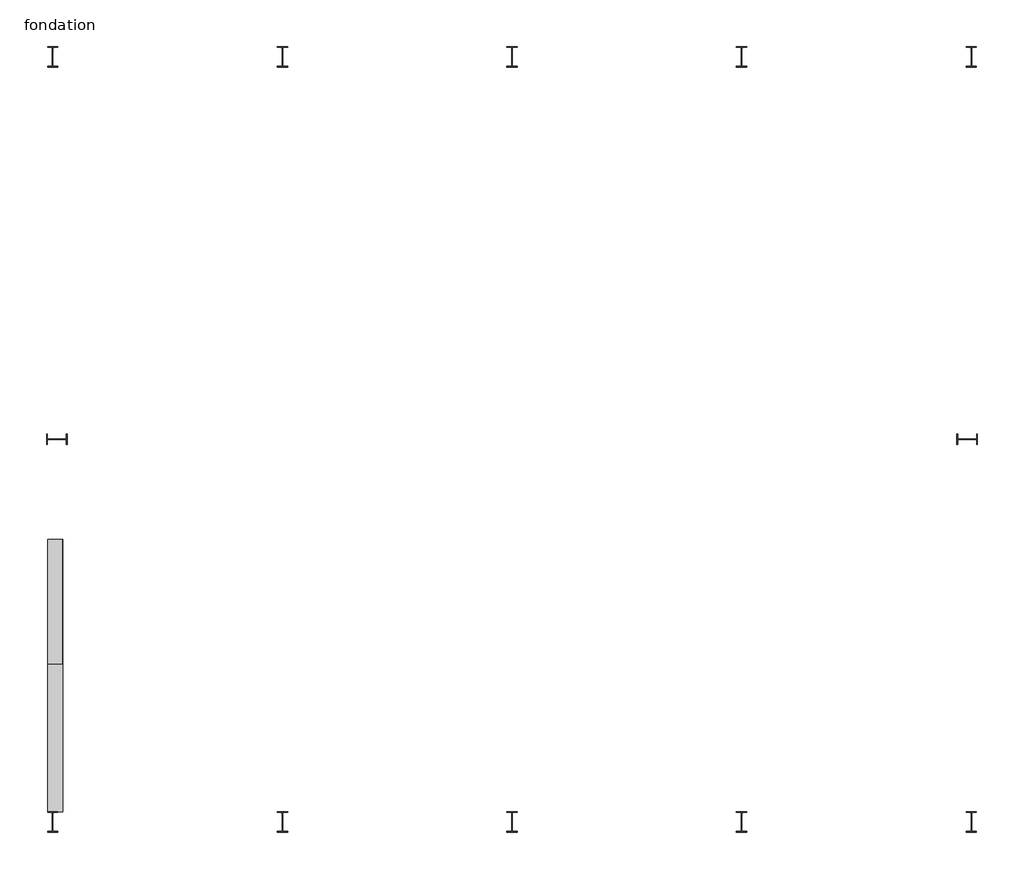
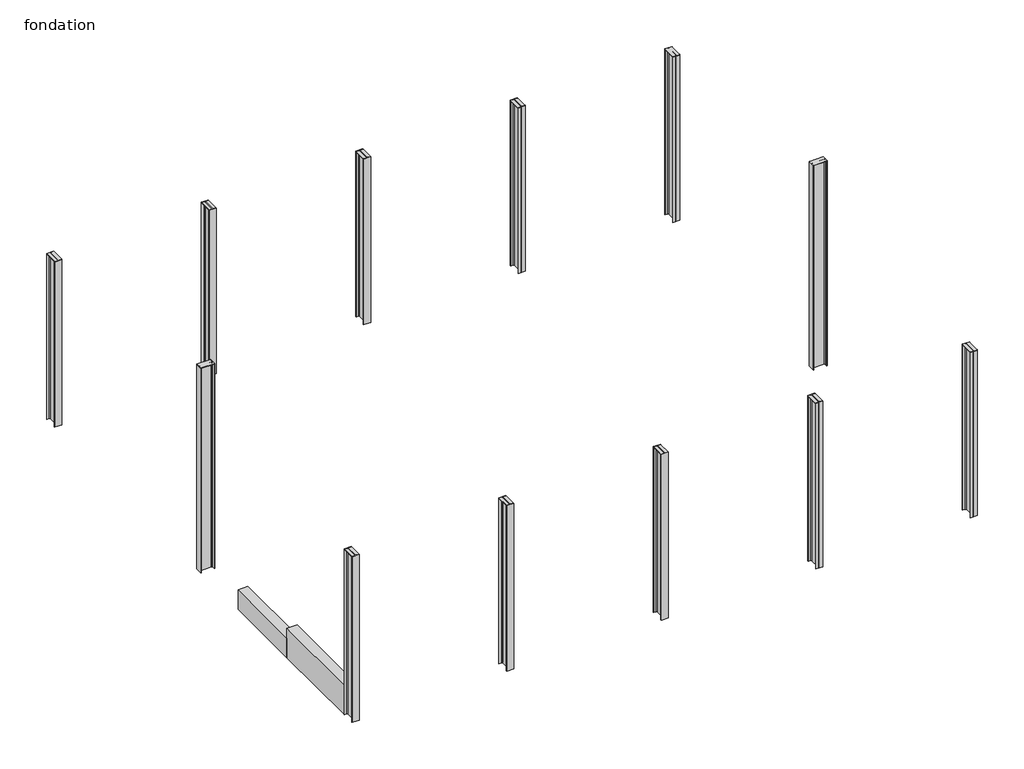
# One storey: 12 columns, 2 beams.
"""IFC4 building model written with IfcOpenShell, lengths in millimetres."""

from ifc_helpers import new_model, si_unit, point, frame, frame_2d, origin, place, context, project, spatial, polyline, circle_curve, trimmed, segment, composite_curve, outline, extrude, faceted_brep, transform, mapped, element, save
from components import ipe270_8f180465

model = new_model("IFC4")

# Units and contexts
model_context = context("Model", 3, world=origin())
ifc_project = project(units=[si_unit("LENGTHUNIT", "METRE", prefix="MILLI")], contexts=[model_context])

# Site, building, storey
site = spatial("IfcSite", under=ifc_project)
building = spatial("IfcBuilding", under=site)
storey = spatial("IfcBuildingStorey", under=building, Name="fondation", Elevation=-400.0)

# Beams
placement = place(None, origin())
element("IfcBeam", 1, ObjectType="Poutre rectangulaire - Béton : longrine", at=placement, inside=storey, context=model_context, shape_type="Brep", body=[
    faceted_brep([(-16301.3291149, 1052.8785901, 200.0), (-16301.3291149, 1052.8785901, -400.0), (-16101.3291149, 1052.8785901, -400.0), (-16101.3291149, 1052.8785901, -200.0), (-16110.5291149, 1052.8785901, -200.0), (-16110.5291149, 1052.8785901, 0.0), (-16101.3291149, 1052.8785901, 0.0), (-16101.3291149, 1052.8785901, 200.0), (-16301.3291149, 2975.5785901, 200.0), (-16101.3291149, 2975.5785901, 200.0), (-16101.3291149, 2975.5785901, 0.0), (-16110.5291149, 2975.5785901, 0.0), (-16110.5291149, 2975.5785901, -200.0), (-16101.3291149, 2975.5785901, -200.0), (-16101.3291149, 2975.5785901, -400.0), (-16301.3291149, 2975.5785901, -400.0), (-16301.3291149, 2975.5785901, 0.0)], [[[0, 1, 2, 3, 4, 5, 6, 7]], [[8, 9, 10, 11, 12, 13, 14, 15, 16]], [[1, 0, 8, 16, 15]], [[2, 1, 15, 14]], [[2, 14, 13, 3]], [[0, 7, 9, 8]], [[12, 4, 3, 13]], [[5, 11, 10, 6]], [[4, 12, 11, 5]], [[9, 7, 6, 10]]]),
])
element("IfcBeam", 2, ObjectType="Poutre rectangulaire - Béton : petie longrine", at=placement, inside=storey, context=model_context, shape_type="SweptSolid", body=[
    extrude(outline(polyline([(0.0, -16301.3291149), (-400.0, -16301.3291149), (-400.0, -16101.3291149), (-200.0, -16101.3291149), (-200.0, -16110.5291149), (0.0, -16110.5291149), (0.0, -16301.3291149)])), frame((0.0, 2975.5785901, 0.0), z_axis=(0.0, 1.0, 0.0), x_axis=(0.0, 0.0, 1.0)), (0.0, 0.0, 1.0), 1636.6955527),
])

# Columns
element("IfcColumn", 3, ObjectType="Poteau IPEavec plaque : IPE270", at=placement, inside=storey, context=model_context, shape_type="SweptSolid", body=[
    extrude(outline(polyline([(-16166.3291149, 11052.4635983), (-16166.3291149, 10782.4635983), (-16301.3291149, 10782.4635983), (-16301.3291149, 11052.4635983), (-16166.3291149, 11052.4635983)])), frame((0.0, 0.0, 2990.0), z_axis=(0.0, 0.0, 1.0), x_axis=(1.0, 0.0, 0.0)), (0.0, 0.0, 1.0), 10.0),
    extrude(outline(composite_curve([segment(polyline([(-16166.3291149, 11052.4635983), (-16166.3291149, 11042.2635983), (-16215.5291149, 11042.2635983)]), True, "CONTINUOUS"), segment(trimmed(circle_curve(frame_2d((-16215.5291149, 11027.2635983)), 15.0), [point((-16215.5291149, 11042.2635983))], [point((-16230.5291149, 11027.2635983))], True, "CARTESIAN"), True, "CONTINUOUS"), segment(polyline([(-16230.5291149, 11027.2635983), (-16230.5291149, 10807.6635983)]), True, "CONTINUOUS"), segment(trimmed(circle_curve(frame_2d((-16215.5291149, 10807.6635983)), 15.0), [point((-16230.5291149, 10807.6635983))], [point((-16215.5291149, 10792.6635983))], True, "CARTESIAN"), True, "CONTINUOUS"), segment(polyline([(-16215.5291149, 10792.6635983), (-16166.3291149, 10792.6635983), (-16166.3291149, 10782.4635983), (-16301.3291149, 10782.4635983), (-16301.3291149, 10792.6635983), (-16252.1291149, 10792.6635983)]), True, "CONTINUOUS"), segment(trimmed(circle_curve(frame_2d((-16252.1291149, 10807.6635983)), 15.0), [point((-16252.1291149, 10792.6635983))], [point((-16237.1291149, 10807.6635983))], True, "CARTESIAN"), True, "CONTINUOUS"), segment(polyline([(-16237.1291149, 10807.6635983), (-16237.1291149, 11027.2635983)]), True, "CONTINUOUS"), segment(trimmed(circle_curve(frame_2d((-16252.1291149, 11027.2635983)), 15.0), [point((-16237.1291149, 11027.2635983))], [point((-16252.1291149, 11042.2635983))], True, "CARTESIAN"), True, "CONTINUOUS"), segment(polyline([(-16252.1291149, 11042.2635983), (-16301.3291149, 11042.2635983), (-16301.3291149, 11052.4635983), (-16166.3291149, 11052.4635983)]), True, "CONTINUOUS")], self_intersect=False)), frame((0.0, 0.0, -400.0), z_axis=(0.0, 0.0, 1.0), x_axis=(1.0, 0.0, 0.0)), (0.0, 0.0, 1.0), 3400.0),
])
element("IfcColumn", 4, ObjectType="Poteau IPEavec plaque : IPE270", at=placement, inside=storey, context=model_context, shape_type="SweptSolid", body=[
    extrude(outline(polyline([(-4166.3291149, 11052.4635983), (-4166.3291149, 10782.4635983), (-4301.3291149, 10782.4635983), (-4301.3291149, 11052.4635983), (-4166.3291149, 11052.4635983)])), frame((0.0, 0.0, 2990.0), z_axis=(0.0, 0.0, 1.0), x_axis=(1.0, 0.0, 0.0)), (0.0, 0.0, 1.0), 10.0),
    extrude(outline(composite_curve([segment(polyline([(-4166.3291149, 11052.4635983), (-4166.3291149, 11042.2635983), (-4215.5291149, 11042.2635983)]), True, "CONTINUOUS"), segment(trimmed(circle_curve(frame_2d((-4215.5291149, 11027.2635983)), 15.0), [point((-4215.5291149, 11042.2635983))], [point((-4230.5291149, 11027.2635983))], True, "CARTESIAN"), True, "CONTINUOUS"), segment(polyline([(-4230.5291149, 11027.2635983), (-4230.5291149, 10807.6635983)]), True, "CONTINUOUS"), segment(trimmed(circle_curve(frame_2d((-4215.5291149, 10807.6635983)), 15.0), [point((-4230.5291149, 10807.6635983))], [point((-4215.5291149, 10792.6635983))], True, "CARTESIAN"), True, "CONTINUOUS"), segment(polyline([(-4215.5291149, 10792.6635983), (-4166.3291149, 10792.6635983), (-4166.3291149, 10782.4635983), (-4301.3291149, 10782.4635983), (-4301.3291149, 10792.6635983), (-4252.1291149, 10792.6635983)]), True, "CONTINUOUS"), segment(trimmed(circle_curve(frame_2d((-4252.1291149, 10807.6635983)), 15.0), [point((-4252.1291149, 10792.6635983))], [point((-4237.1291149, 10807.6635983))], True, "CARTESIAN"), True, "CONTINUOUS"), segment(polyline([(-4237.1291149, 10807.6635983), (-4237.1291149, 11027.2635983)]), True, "CONTINUOUS"), segment(trimmed(circle_curve(frame_2d((-4252.1291149, 11027.2635983)), 15.0), [point((-4237.1291149, 11027.2635983))], [point((-4252.1291149, 11042.2635983))], True, "CARTESIAN"), True, "CONTINUOUS"), segment(polyline([(-4252.1291149, 11042.2635983), (-4301.3291149, 11042.2635983), (-4301.3291149, 11052.4635983), (-4166.3291149, 11052.4635983)]), True, "CONTINUOUS")], self_intersect=False)), frame((0.0, 0.0, -400.0), z_axis=(0.0, 0.0, 1.0), x_axis=(1.0, 0.0, 0.0)), (0.0, 0.0, 1.0), 3400.0),
])
element("IfcColumn", 5, ObjectType="Poteau IPEavec plaque : IPE270", at=placement, inside=storey, context=model_context, shape_type="SweptSolid", body=[
    extrude(outline(polyline([(-4166.3291149, 1052.4635983), (-4166.3291149, 782.4635983), (-4301.3291149, 782.4635983), (-4301.3291149, 1052.4635983), (-4166.3291149, 1052.4635983)])), frame((0.0, 0.0, 2990.0), z_axis=(0.0, 0.0, 1.0), x_axis=(1.0, 0.0, 0.0)), (0.0, 0.0, 1.0), 10.0),
    extrude(outline(composite_curve([segment(polyline([(-4166.3291149, 1052.4635983), (-4166.3291149, 1042.2635983), (-4215.5291149, 1042.2635983)]), True, "CONTINUOUS"), segment(trimmed(circle_curve(frame_2d((-4215.5291149, 1027.2635983)), 15.0), [point((-4215.5291149, 1042.2635983))], [point((-4230.5291149, 1027.2635983))], True, "CARTESIAN"), True, "CONTINUOUS"), segment(polyline([(-4230.5291149, 1027.2635983), (-4230.5291149, 807.6635983)]), True, "CONTINUOUS"), segment(trimmed(circle_curve(frame_2d((-4215.5291149, 807.6635983)), 15.0), [point((-4230.5291149, 807.6635983))], [point((-4215.5291149, 792.6635983))], True, "CARTESIAN"), True, "CONTINUOUS"), segment(polyline([(-4215.5291149, 792.6635983), (-4166.3291149, 792.6635983), (-4166.3291149, 782.4635983), (-4301.3291149, 782.4635983), (-4301.3291149, 792.6635983), (-4252.1291149, 792.6635983)]), True, "CONTINUOUS"), segment(trimmed(circle_curve(frame_2d((-4252.1291149, 807.6635983)), 15.0), [point((-4252.1291149, 792.6635983))], [point((-4237.1291149, 807.6635983))], True, "CARTESIAN"), True, "CONTINUOUS"), segment(polyline([(-4237.1291149, 807.6635983), (-4237.1291149, 1027.2635983)]), True, "CONTINUOUS"), segment(trimmed(circle_curve(frame_2d((-4252.1291149, 1027.2635983)), 15.0), [point((-4237.1291149, 1027.2635983))], [point((-4252.1291149, 1042.2635983))], True, "CARTESIAN"), True, "CONTINUOUS"), segment(polyline([(-4252.1291149, 1042.2635983), (-4301.3291149, 1042.2635983), (-4301.3291149, 1052.4635983), (-4166.3291149, 1052.4635983)]), True, "CONTINUOUS")], self_intersect=False)), frame((0.0, 0.0, -400.0), z_axis=(0.0, 0.0, 1.0), x_axis=(1.0, 0.0, 0.0)), (0.0, 0.0, 1.0), 3400.0),
])
element("IfcColumn", 6, ObjectType="Poteau IPEavec plaque : IPE270", at=placement, inside=storey, context=model_context, shape_type="SweptSolid", body=[
    extrude(outline(polyline([(-4153.8291149, 5849.9635983), (-4423.8291149, 5849.9635983), (-4423.8291149, 5984.9635983), (-4153.8291149, 5984.9635983), (-4153.8291149, 5849.9635983)])), frame((0.0, 0.0, 3794.4898068), z_axis=(0.0, 0.0, 1.0), x_axis=(1.0, 0.0, 0.0)), (0.0, 0.0, 1.0), 10.0),
    extrude(outline(composite_curve([segment(polyline([(-4153.8291149, 5849.9635983), (-4164.0291149, 5849.9635983), (-4164.0291149, 5899.1635983)]), True, "CONTINUOUS"), segment(trimmed(circle_curve(frame_2d((-4179.0291149, 5899.1635983)), 15.0), [point((-4164.0291149, 5899.1635983))], [point((-4179.0291149, 5914.1635983))], True, "CARTESIAN"), True, "CONTINUOUS"), segment(polyline([(-4179.0291149, 5914.1635983), (-4398.6291149, 5914.1635983)]), True, "CONTINUOUS"), segment(trimmed(circle_curve(frame_2d((-4398.6291149, 5899.1635983)), 15.0), [point((-4398.6291149, 5914.1635983))], [point((-4413.6291149, 5899.1635983))], True, "CARTESIAN"), True, "CONTINUOUS"), segment(polyline([(-4413.6291149, 5899.1635983), (-4413.6291149, 5849.9635983), (-4423.8291149, 5849.9635983), (-4423.8291149, 5984.9635983), (-4413.6291149, 5984.9635983), (-4413.6291149, 5935.7635983)]), True, "CONTINUOUS"), segment(trimmed(circle_curve(frame_2d((-4398.6291149, 5935.7635983)), 15.0), [point((-4413.6291149, 5935.7635983))], [point((-4398.6291149, 5920.7635983))], True, "CARTESIAN"), True, "CONTINUOUS"), segment(polyline([(-4398.6291149, 5920.7635983), (-4179.0291149, 5920.7635983)]), True, "CONTINUOUS"), segment(trimmed(circle_curve(frame_2d((-4179.0291149, 5935.7635983)), 15.0), [point((-4179.0291149, 5920.7635983))], [point((-4164.0291149, 5935.7635983))], True, "CARTESIAN"), True, "CONTINUOUS"), segment(polyline([(-4164.0291149, 5935.7635983), (-4164.0291149, 5984.9635983), (-4153.8291149, 5984.9635983), (-4153.8291149, 5849.9635983)]), True, "CONTINUOUS")], self_intersect=False)), frame((0.0, 0.0, -400.0), z_axis=(0.0, 0.0, 1.0), x_axis=(1.0, 0.0, 0.0)), (0.0, 0.0, 1.0), 4204.4898068),
])
element("IfcColumn", 7, ObjectType="Poteau IPEavec plaque : IPE270", at=placement, inside=storey, context=model_context, shape_type="SweptSolid", body=[
    extrude(outline(polyline([(-16043.8291149, 5849.9635983), (-16313.8291149, 5849.9635983), (-16313.8291149, 5984.9635983), (-16043.8291149, 5984.9635983), (-16043.8291149, 5849.9635983)])), frame((0.0, 0.0, 3794.4898068), z_axis=(0.0, 0.0, 1.0), x_axis=(1.0, 0.0, 0.0)), (0.0, 0.0, 1.0), 10.0),
    extrude(outline(composite_curve([segment(polyline([(-16043.8291149, 5849.9635983), (-16054.0291149, 5849.9635983), (-16054.0291149, 5899.1635983)]), True, "CONTINUOUS"), segment(trimmed(circle_curve(frame_2d((-16069.0291149, 5899.1635983)), 15.0), [point((-16054.0291149, 5899.1635983))], [point((-16069.0291149, 5914.1635983))], True, "CARTESIAN"), True, "CONTINUOUS"), segment(polyline([(-16069.0291149, 5914.1635983), (-16288.6291149, 5914.1635983)]), True, "CONTINUOUS"), segment(trimmed(circle_curve(frame_2d((-16288.6291149, 5899.1635983)), 15.0), [point((-16288.6291149, 5914.1635983))], [point((-16303.6291149, 5899.1635983))], True, "CARTESIAN"), True, "CONTINUOUS"), segment(polyline([(-16303.6291149, 5899.1635983), (-16303.6291149, 5849.9635983), (-16313.8291149, 5849.9635983), (-16313.8291149, 5984.9635983), (-16303.6291149, 5984.9635983), (-16303.6291149, 5935.7635983)]), True, "CONTINUOUS"), segment(trimmed(circle_curve(frame_2d((-16288.6291149, 5935.7635983)), 15.0), [point((-16303.6291149, 5935.7635983))], [point((-16288.6291149, 5920.7635983))], True, "CARTESIAN"), True, "CONTINUOUS"), segment(polyline([(-16288.6291149, 5920.7635983), (-16069.0291149, 5920.7635983)]), True, "CONTINUOUS"), segment(trimmed(circle_curve(frame_2d((-16069.0291149, 5935.7635983)), 15.0), [point((-16069.0291149, 5920.7635983))], [point((-16054.0291149, 5935.7635983))], True, "CARTESIAN"), True, "CONTINUOUS"), segment(polyline([(-16054.0291149, 5935.7635983), (-16054.0291149, 5984.9635983), (-16043.8291149, 5984.9635983), (-16043.8291149, 5849.9635983)]), True, "CONTINUOUS")], self_intersect=False)), frame((0.0, 0.0, -400.0), z_axis=(0.0, 0.0, 1.0), x_axis=(1.0, 0.0, 0.0)), (0.0, 0.0, 1.0), 4204.4898068),
])
ipe270_shape = ipe270_8f180465(model_context)
element("IfcColumn", 8, ObjectType="Poteau IPEavec plaque : IPE270", at=placement, inside=storey, context=model_context, shape_type="MappedRepresentation", body=[
    mapped(ipe270_shape, transform((-13233.8291149, 10917.4635983, 0.0), x_axis=(1.0, 0.0, 0.0), y_axis=(0.0, 1.0, 0.0), z_axis=(0.0, 0.0, 1.0))),
])
element("IfcColumn", 9, ObjectType="Poteau IPEavec plaque : IPE270", at=placement, inside=storey, context=model_context, shape_type="MappedRepresentation", body=[
    mapped(ipe270_shape, transform((-10233.8291149, 10917.4635983, 0.0), x_axis=(1.0, 0.0, 0.0), y_axis=(0.0, 1.0, 0.0), z_axis=(0.0, 0.0, 1.0))),
])
element("IfcColumn", 10, ObjectType="Poteau IPEavec plaque : IPE270", at=placement, inside=storey, context=model_context, shape_type="MappedRepresentation", body=[
    mapped(ipe270_shape, transform((-7233.8291149, 10917.4635983, 0.0), x_axis=(1.0, 0.0, 0.0), y_axis=(0.0, 1.0, 0.0), z_axis=(0.0, 0.0, 1.0))),
])
element("IfcColumn", 11, ObjectType="Poteau IPEavec plaque : IPE270", at=placement, inside=storey, context=model_context, shape_type="MappedRepresentation", body=[
    mapped(ipe270_shape, transform((-16233.8291149, 917.4635983, 0.0), x_axis=(1.0, 0.0, 0.0), y_axis=(0.0, 1.0, 0.0), z_axis=(0.0, 0.0, 1.0))),
])
element("IfcColumn", 12, ObjectType="Poteau IPEavec plaque : IPE270", at=placement, inside=storey, context=model_context, shape_type="MappedRepresentation", body=[
    mapped(ipe270_shape, transform((-13233.8291149, 917.4635983, 0.0), x_axis=(1.0, 0.0, 0.0), y_axis=(0.0, 1.0, 0.0), z_axis=(0.0, 0.0, 1.0))),
])
element("IfcColumn", 13, ObjectType="Poteau IPEavec plaque : IPE270", at=placement, inside=storey, context=model_context, shape_type="MappedRepresentation", body=[
    mapped(ipe270_shape, transform((-10233.8291149, 917.4635983, 0.0), x_axis=(1.0, 0.0, 0.0), y_axis=(0.0, 1.0, 0.0), z_axis=(0.0, 0.0, 1.0))),
])
element("IfcColumn", 14, ObjectType="Poteau IPEavec plaque : IPE270", at=placement, inside=storey, context=model_context, shape_type="MappedRepresentation", body=[
    mapped(ipe270_shape, transform((-7233.8291149, 917.4635983, 0.0), x_axis=(1.0, 0.0, 0.0), y_axis=(0.0, 1.0, 0.0), z_axis=(0.0, 0.0, 1.0))),
])

save(model, "model.ifc")
